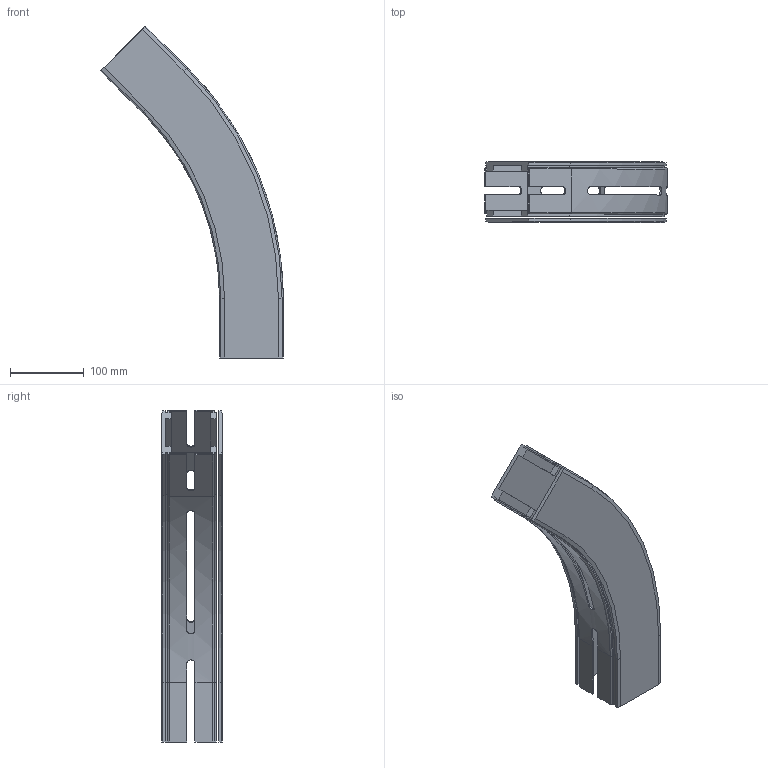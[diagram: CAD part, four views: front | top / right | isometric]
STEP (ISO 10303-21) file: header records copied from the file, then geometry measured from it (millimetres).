
FILE_DESCRIPTION(/* description */ ('GLIDKURVA SERIE 530'),/* implementation_level */ '2;1');
FILE_NAME(/* name */ '530-5375+830-2000-01.stp',/* time_stamp */ '2022-09-20T15:10:13+02:00',/* author */ ('Mathias.Dore'),/* organization */ ('CARRYLINE'),/* preprocessor_version */ 'ST-DEVELOPER v19.2',/* originating_system */ 'Autodesk Inventor 2023',/* authorisation */ '');
FILE_SCHEMA (('AUTOMOTIVE_DESIGN { 1 0 10303 214 3 1 1 }'));
Length unit declared in the file: millimetre
Products named in the file (1): 530-5375+830-2000-01
Bounding box: 247.13 x 82 x 449.82 mm (x, y, z)
Volume: 686782.2 mm3; surface area: 329911 mm2
Topology: 2 solids, 2 shells, 171 faces, 470 edges, 308 vertices
Faces by surface type: plane 113, cylinder 30, bspline 20, torus 4, cone 4
Entity records: 5869 total; most frequent: CARTESIAN_POINT 1470, ORIENTED_EDGE 940, DIRECTION 818, EDGE_CURVE 470, LINE 346, VECTOR 346, VERTEX_POINT 308, AXIS2_PLACEMENT_3D 236
